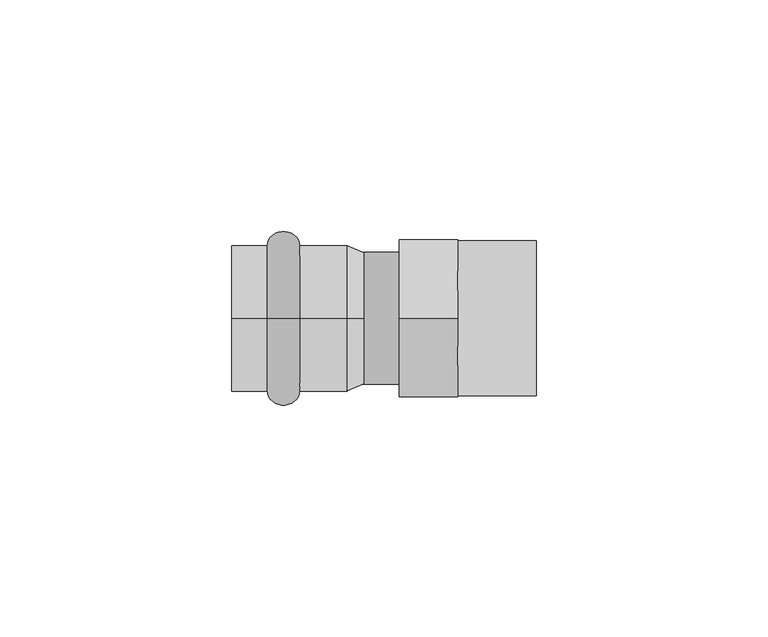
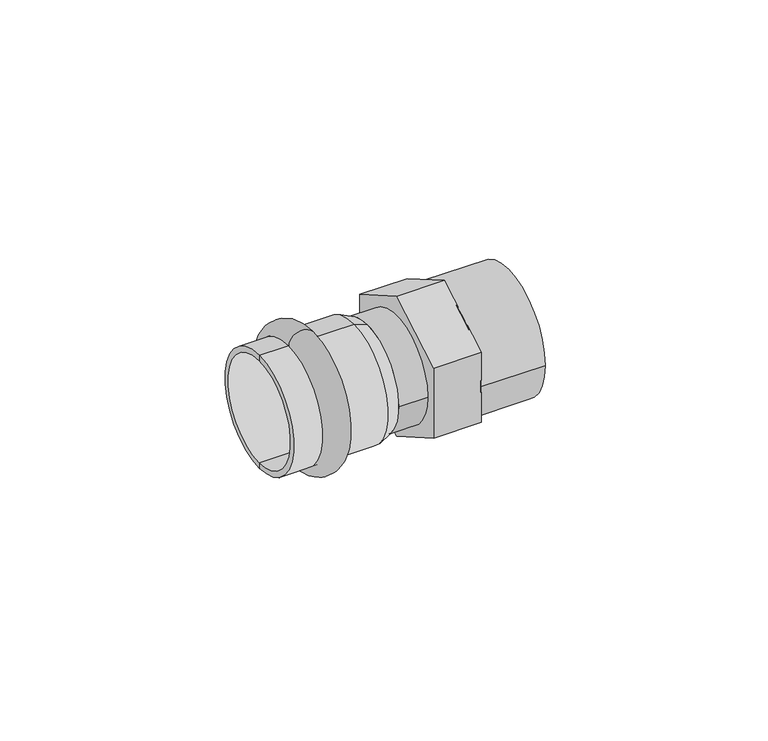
"""IFC4 building model written with IfcOpenShell, lengths in millimetres: pipe fitting geometry."""

from ifc_helpers import new_model, si_unit, point, frame, origin, origin_2d, place, context, project, spatial, polyline, circle_curve, ellipse_curve, trimmed, segment, composite_curve, outline, extrude, source, transform, mapped, element, save
from ifc_brep_helpers import plane_surface, cylinder_surface, revolved_surface, advanced_brep


def pipe_fitting_9e277bd1(model_context):
    return source(origin(), model_context, "Body", "SolidModel", [
        advanced_brep(
        [(-17.3, 0.0, 15.75), (-17.3, 0.0, -15.75), (-10.3, 0.0, -15.75), (-10.3, 0.0, 15.75)],
        [
            (0, 1, circle_curve(frame((-17.3, 0.0, 0.0), z_axis=(-1.0, 0.0, 0.0), x_axis=(0.0, 0.0, -1.0)), 15.75)),
            (1, 2),
            (2, 3, circle_curve(frame((-10.3, 0.0, 0.0), z_axis=(1.0, 0.0, 0.0), x_axis=(0.0, 0.0, -1.0)), 15.75)),
            (3, 0),
            (1, 0, circle_curve(frame((-17.3, 0.0, 0.0), z_axis=(-1.0, 0.0, 0.0), x_axis=(0.0, 0.0, -1.0)), 15.75)),
            (3, 2, circle_curve(frame((-10.3, 0.0, 0.0), z_axis=(1.0, 0.0, 0.0), x_axis=(0.0, 0.0, -1.0)), 15.75)),
            (2, 1, ellipse_curve(frame((-13.8, 0.0, -15.75), z_axis=(0.0, 1.0, 0.0), x_axis=(-1.0, 0.0, 0.0)), 3.5, 3.1)),
            (0, 3, ellipse_curve(frame((-13.8, 0.0, 15.75), z_axis=(0.0, 1.0, 0.0), x_axis=(-1.0, 0.0, 0.0)), 3.5, 3.1)),
        ],
        [
            revolved_surface(polyline([(-10.3, 0.0, -15.75), (-17.3, 0.0, -15.75)]), (2.7, 0.0, 0.0), (1.0, 0.0, 0.0)),
            revolved_surface(trimmed(ellipse_curve(frame((-13.8, 0.0, -15.75), z_axis=(0.0, -1.0, 0.0), x_axis=(-1.0, 0.0, 0.0)), 3.5, 3.1), [point((-17.3, 0.0, -15.75))], [point((-10.3, 0.0, -15.75))], True, "CARTESIAN"), (2.7, 0.0, 0.0), (1.0, 0.0, 0.0)),
        ],
        [
            (0, [[1, 2, 3, 4]]),
            (0, [[5, -4, 6, -2]]),
            (1, [[-3, 7, -1, 8]]),
            (1, [[-6, -8, -5, -7]]),
        ],
    ),
        advanced_brep(
        [(3.5337785, 0.0, 14.25), (3.5337785, 0.0, -14.25), (0.0, 0.0, -15.75), (0.0, 0.0, 15.75), (-25.0, 0.0, 14.25), (-25.0, 0.0, -14.25), (-25.0, 0.0, 15.75), (-25.0, 0.0, -15.75)],
        [
            (0, 1, circle_curve(frame((3.5337785, 0.0, 0.0), z_axis=(-1.0, 0.0, 0.0), x_axis=(0.0, 0.0, -1.0)), 14.25)),
            (1, 2),
            (2, 3, circle_curve(frame((0.0, 0.0, 0.0), z_axis=(1.0, 0.0, 0.0), x_axis=(0.0, 0.0, -1.0)), 15.75)),
            (3, 0),
            (1, 0, circle_curve(frame((3.5337785, 0.0, 0.0), z_axis=(-1.0, 0.0, 0.0), x_axis=(0.0, 0.0, -1.0)), 14.25)),
            (3, 2, circle_curve(frame((0.0, 0.0, 0.0), z_axis=(1.0, 0.0, 0.0), x_axis=(0.0, 0.0, -1.0)), 15.75)),
            (4, 5, circle_curve(frame((-25.0, 0.0, 0.0), z_axis=(-1.0, 0.0, 0.0), x_axis=(0.0, 0.0, -1.0)), 14.25)),
            (5, 1),
            (0, 4),
            (5, 4, circle_curve(frame((-25.0, 0.0, 0.0), z_axis=(-1.0, 0.0, 0.0), x_axis=(0.0, 0.0, -1.0)), 14.25)),
            (6, 7, circle_curve(frame((-25.0, 0.0, 0.0), z_axis=(-1.0, 0.0, 0.0), x_axis=(0.0, 0.0, -1.0)), 15.75)),
            (7, 5),
            (4, 6),
            (7, 6, circle_curve(frame((-25.0, 0.0, 0.0), z_axis=(-1.0, 0.0, 0.0), x_axis=(0.0, 0.0, -1.0)), 15.75)),
            (2, 7),
            (6, 3),
        ],
        [
            revolved_surface(polyline([(0.0, 0.0, -15.75), (3.5337785, 0.0, -14.25)]), (2.7, 0.0, 0.0), (1.0, 0.0, 0.0)),
            revolved_surface(polyline([(3.5337785, 0.0, -14.25), (-25.0, 0.0, -14.25)]), (2.7, 0.0, 0.0), (1.0, 0.0, 0.0)),
            plane_surface(frame((-25.0, 0.0, 0.0), z_axis=(-1.0, 0.0, 0.0), x_axis=(0.0, 0.0, -1.0))),
            cylinder_surface(frame((2.7, 0.0, 0.0), z_axis=(1.0, 0.0, 0.0), x_axis=(0.0, 0.0, -1.0)), 15.75),
        ],
        [
            (0, [[1, 2, 3, 4]]),
            (0, [[5, -4, 6, -2]]),
            (1, [[7, 8, -1, 9]]),
            (1, [[10, -9, -5, -8]]),
            (2, [[11, 12, -7, 13]]),
            (2, [[14, -13, -10, -12]]),
            (3, [[-3, 15, -11, 16]]),
            (3, [[-6, -16, -14, -15]]),
        ],
    ),
        extrude(outline(composite_curve([segment(trimmed(circle_curve(origin_2d(), 16.75), [point((-16.75, 0.0))], [point((16.75, 0.0))], False, "CARTESIAN"), True, "CONTINUOUS"), segment(trimmed(circle_curve(origin_2d(), 16.75), [point((16.75, 0.0))], [point((-16.75, 0.0))], False, "CARTESIAN"), True, "CONTINUOUS")], self_intersect=False)), frame((23.8337785, 0.0, 0.0), z_axis=(1.0, 0.0, 0.0), x_axis=(0.0, 1.0, 0.0)), (0.0, 0.0, 1.0), 17.0),
        extrude(outline(composite_curve([segment(trimmed(circle_curve(origin_2d(), 14.25), [point((-14.25, 0.0))], [point((14.25, 0.0))], False, "CARTESIAN"), True, "CONTINUOUS"), segment(trimmed(circle_curve(origin_2d(), 14.25), [point((14.25, 0.0))], [point((-14.25, 0.0))], False, "CARTESIAN"), True, "CONTINUOUS")], self_intersect=False)), frame((3.5337785, 0.0, 0.0), z_axis=(1.0, 0.0, 0.0), x_axis=(0.0, 1.0, 0.0)), (0.0, 0.0, 1.0), 7.7),
        extrude(outline(polyline([(-16.95, 9.7860871), (0.0, 19.5721741), (16.95, 9.7860871), (16.95, -9.7860871), (0.0, -19.5721741), (-16.95, -9.7860871), (-16.95, 9.7860871)]), holes=[polyline([(0.0, -10.68098), (9.25, -5.34049), (9.25, 5.34049), (0.0, 10.68098), (-9.25, 5.34049), (-9.25, -5.34049), (0.0, -10.68098)])]), frame((11.2337785, 0.0, 0.0), z_axis=(1.0, 0.0, 0.0), x_axis=(0.0, 1.0, 0.0)), (0.0, 0.0, 1.0), 12.6),
    ])


if __name__ == "__main__":
    model = new_model("IFC4")
    model_context = context("Model", 3, world=origin())
    ifc_project = project(units=[si_unit("LENGTHUNIT", "METRE", prefix="MILLI")], contexts=[model_context])
    site = spatial("IfcSite", under=ifc_project)
    building = spatial("IfcBuilding", under=site)
    placement = place(None, origin())
    pipe_fitting_shape = pipe_fitting_9e277bd1(model_context)
    element("IfcPipeFitting", 1, ObjectType="РЕХАУ_Пресс Муфта НР : 28 x R 1\"", at=placement, inside=building, context=model_context, shape_type="MappedRepresentation", body=[
        mapped(pipe_fitting_shape, transform((0.0, 0.0, 0.0), x_axis=(1.0, 0.0, 0.0), y_axis=(0.0, 1.0, 0.0), z_axis=(0.0, 0.0, 1.0))),
    ])
    save(model, "model.ifc")
